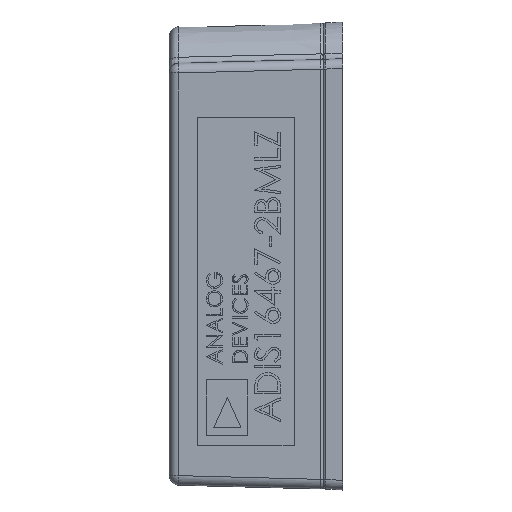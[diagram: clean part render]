
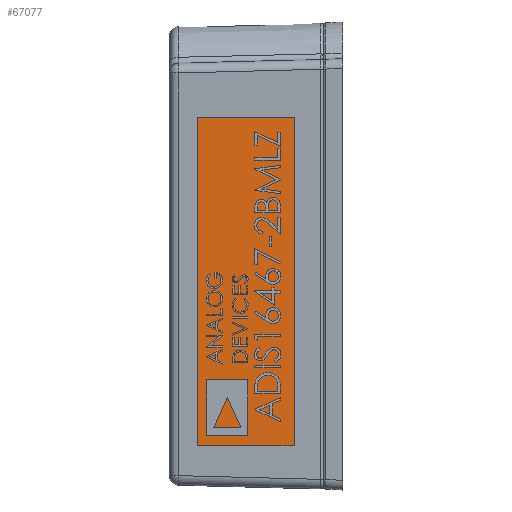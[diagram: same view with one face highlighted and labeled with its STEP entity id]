
A CAD part, left-side view. The second image highlights one B-rep face of the part: STEP entity #67077.
In plain terms, the highlighted planar face has unit normal (-1, 0.026, 0) as drawn and (1, -0.026, 0) by its records, which use the part's own axes.
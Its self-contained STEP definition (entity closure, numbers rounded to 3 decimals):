
#580 = FACE_OUTER_BOUND ( 'NONE', #56074, .T. ) ;
#840 = CARTESIAN_POINT ( 'NONE',  ( 11.033, -0.289, 0. ) ) ;
#1872 = ORIENTED_EDGE ( 'NONE', *, *, #17154, .T. ) ;
#1880 = ORIENTED_EDGE ( 'NONE', *, *, #69517, .T. ) ;
#3035 = VECTOR ( 'NONE', #36722, 1000. ) ;
#5322 = CARTESIAN_POINT ( 'NONE',  ( 11.079, 1.459, -9.206 ) ) ;
#5836 = DIRECTION ( 'NONE',  ( 0., 0., 1. ) ) ;
#7851 = DIRECTION ( 'NONE',  ( 0., 0., -1. ) ) ;
#12980 = ORIENTED_EDGE ( 'NONE', *, *, #65867, .T. ) ;
#13561 = PLANE ( 'NONE',  #48944 ) ;
#17154 = EDGE_CURVE ( 'NONE', #47468, #67268, #23100, .T. ) ;
#18637 = LINE ( 'NONE', #36306, #35704 ) ;
#19709 = LINE ( 'NONE', #70418, #53884 ) ;
#21330 = CARTESIAN_POINT ( 'NONE',  ( 11.079, 1.459, -9.206 ) ) ;
#21988 = ORIENTED_EDGE ( 'NONE', *, *, #68593, .T. ) ;
#23100 = LINE ( 'NONE', #21330, #31632 ) ;
#24003 = CARTESIAN_POINT ( 'NONE',  ( 11.21, 6.477, -9.206 ) ) ;
#24700 = VERTEX_POINT ( 'NONE', #43774 ) ;
#25228 = DIRECTION ( 'NONE',  ( 1., -0.026, 0. ) ) ;
#31632 = VECTOR ( 'NONE', #7851, 1000. ) ;
#35704 = VECTOR ( 'NONE', #5836, 1000. ) ;
#36306 = CARTESIAN_POINT ( 'NONE',  ( 11.21, 6.477, -9.206 ) ) ;
#36722 = DIRECTION ( 'NONE',  ( 0.026, 1., 0. ) ) ;
#43774 = CARTESIAN_POINT ( 'NONE',  ( 11.21, 6.477, 7.841 ) ) ;
#46102 = DIRECTION ( 'NONE',  ( -0.026, -1., 0. ) ) ;
#46488 = VERTEX_POINT ( 'NONE', #24003 ) ;
#47468 = VERTEX_POINT ( 'NONE', #63373 ) ;
#48944 = AXIS2_PLACEMENT_3D ( 'NONE', #840, #25228, #49642 ) ;
#49642 = DIRECTION ( 'NONE',  ( 0.026, 1., 0. ) ) ;
#53884 = VECTOR ( 'NONE', #46102, 1000. ) ;
#56074 = EDGE_LOOP ( 'NONE', ( #21988, #12980, #1880, #1872 ) ) ;
#63373 = CARTESIAN_POINT ( 'NONE',  ( 11.079, 1.459, 7.841 ) ) ;
#65867 = EDGE_CURVE ( 'NONE', #46488, #24700, #18637, .T. ) ;
#67077 = ADVANCED_FACE ( 'NONE', ( #580 ), #13561, .T. ) ;
#67268 = VERTEX_POINT ( 'NONE', #5322 ) ;
#68593 = EDGE_CURVE ( 'NONE', #67268, #46488, #75073, .T. ) ;
#69517 = EDGE_CURVE ( 'NONE', #24700, #47468, #19709, .T. ) ;
#70418 = CARTESIAN_POINT ( 'NONE',  ( 11.079, 1.459, 7.841 ) ) ;
#73053 = CARTESIAN_POINT ( 'NONE',  ( 11.079, 1.459, -9.206 ) ) ;
#75073 = LINE ( 'NONE', #73053, #3035 ) ;
